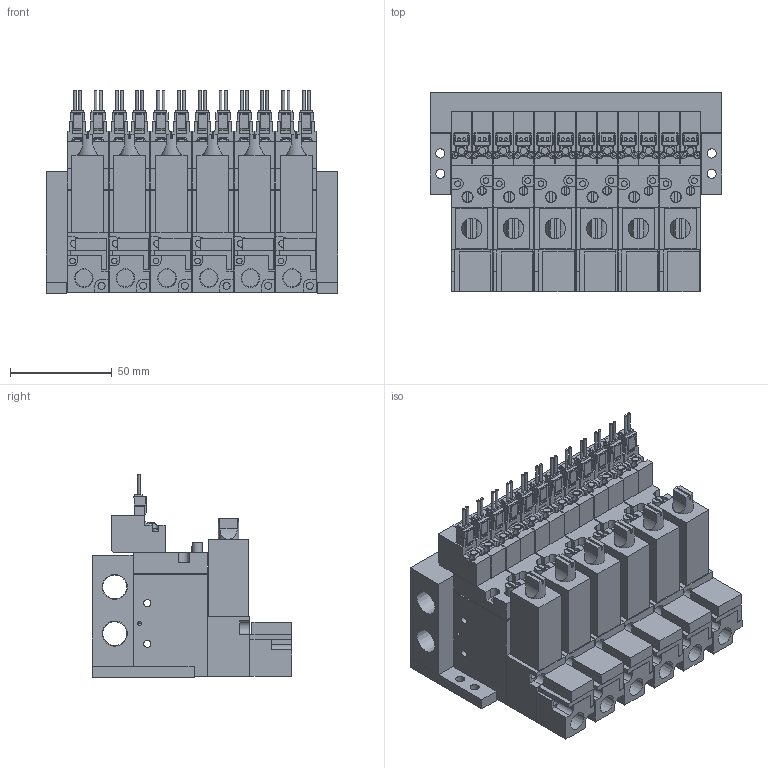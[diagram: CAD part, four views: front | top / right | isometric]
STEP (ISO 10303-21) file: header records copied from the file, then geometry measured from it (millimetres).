
FILE_DESCRIPTION(('STEP AP203'),'1');
FILE_NAME('BMPV32M2NZ25BL606.stp','2025-06-17T01:48:13',(' '),(' '),'Spatial InterOp 3D',' ',' ');
FILE_SCHEMA(('CONFIG_CONTROL_DESIGN'));
Length unit declared in the file: millimetre
Products named in the file (76): BMPV32M2NZ25BL606; S____; ___ ___2; ___-2(Rc); Filter Assy; __; _____; BMPV32 MB06; MB BRACKET; ___; upper plate-A; ______; ____; VACUUM VALVE FUNCTION MPV42-A
Assembly tree (75 placements, depth 2):
  BMPV32M2NZ25BL606
    S____
    ___ ___2
    ___-2(Rc)
    Filter Assy
    __
    _____
    S____
    ___ ___2
    ___-2(Rc)
    Filter Assy
    __
    _____
    S____
    ___ ___2
    ___-2(Rc)
    Filter Assy
    __
    _____
    S____
    ___ ___2
    ___-2(Rc)
    Filter Assy
    __
    _____
    S____
    ___ ___2
    ___-2(Rc)
    Filter Assy
    __
    _____
    BMPV32 MB06
    MB BRACKET
    MB BRACKET
    S____
    ___ ___2
    ___-2(Rc)
    Filter Assy
    __
    _____
    ___
    upper plate-A
    ______
    ____
    VACUUM VALVE FUNCTION MPV42-A
    VACUUM VALVE FUNCTION MPV42-A
    ___
    upper plate-A
    ______
    ____
    VACUUM VALVE FUNCTION MPV42-A
    VACUUM VALVE FUNCTION MPV42-A
    ___
    upper plate-A
    ______
    ____
    VACUUM VALVE FUNCTION MPV42-A
    VACUUM VALVE FUNCTION MPV42-A
    ___
    upper plate-A
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Bounding box: 143.5 x 98 x 99.75 mm (x, y, z)
Volume: 639531.9 mm3; surface area: 218197.1 mm2
Topology: 75 solids, 75 shells, 2081 faces, 5470 edges, 3640 vertices
Faces by surface type: plane 1689, cylinder 348, cone 44
Full cylindrical faces by diameter (mm): 1.4 x24, 1.8 x12, 2 x12, 2.5 x16, 2.8 x24, 3 x24, 3.5 x64, 4 x6, 4.2 x6, 4.5 x4, 5 x6, 5.5 x6, 6.5 x6, 8.522 x6, 11.776 x2
Entity records: 65976 total; most frequent: CARTESIAN_POINT 11253, DIRECTION 10296, ORIENTED_EDGE 10180, EDGE_CURVE 5090, LINE 4150, VECTOR 4150, VERTEX_POINT 3562, AXIS2_PLACEMENT_3D 3073
